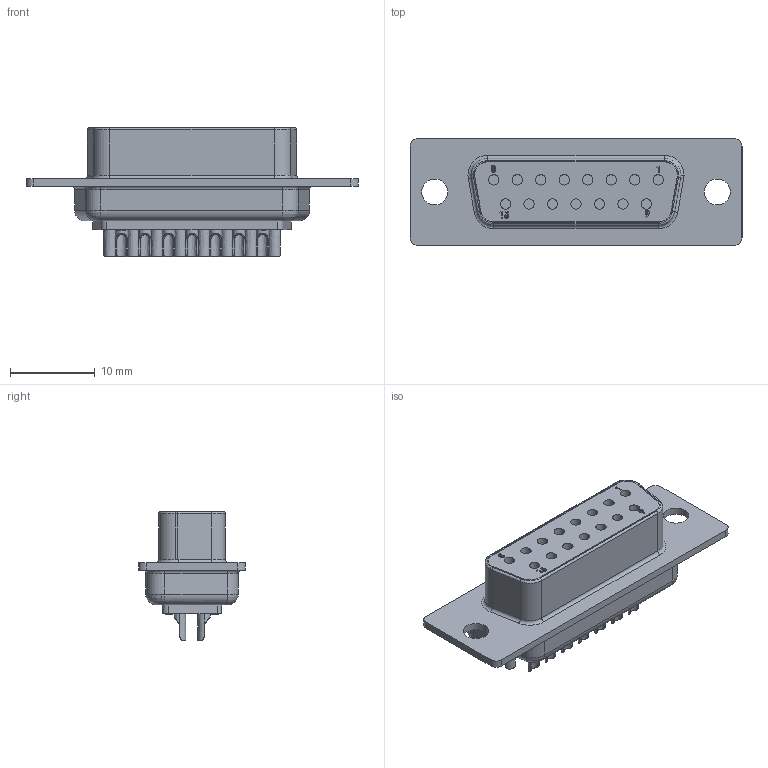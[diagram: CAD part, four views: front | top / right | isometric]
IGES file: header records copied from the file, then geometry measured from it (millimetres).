
Global section: file name: Filename.iges; native system: Open CASCADE 7.3; preprocessor: Open CASCADE IGES processor 7.3; date: 20201223.080450; units: millimetre
Bounding box: 39.15 x 12.6 x 15.27 mm (x, y, z)
Surface area: 3133.8 mm2 (no closed solid volume)
Topology: 0 solids, 0 shells, 483 faces, 2344 edges, 2344 vertices
Faces by surface type: revolution 230, plane 189, bspline 64
